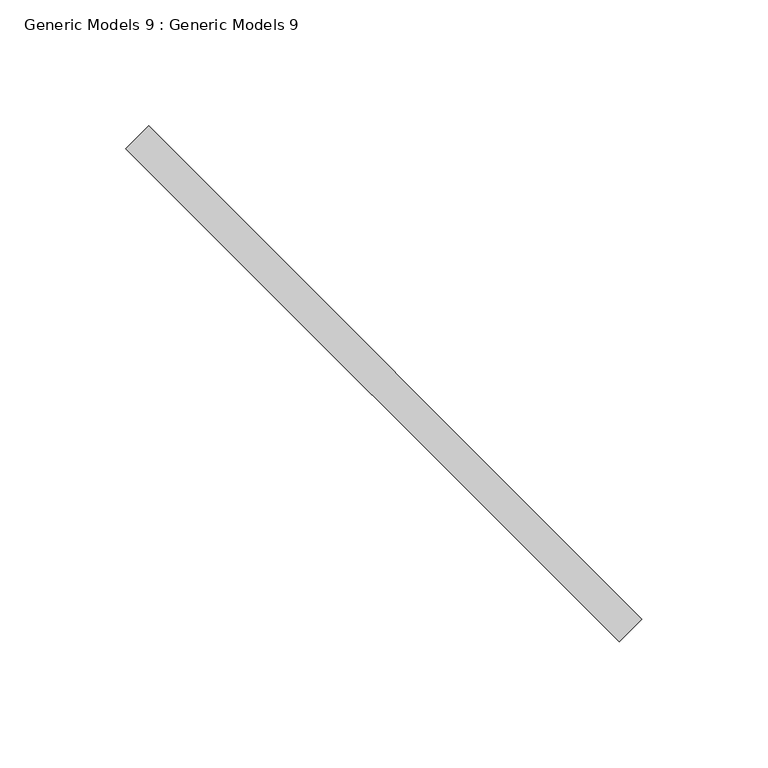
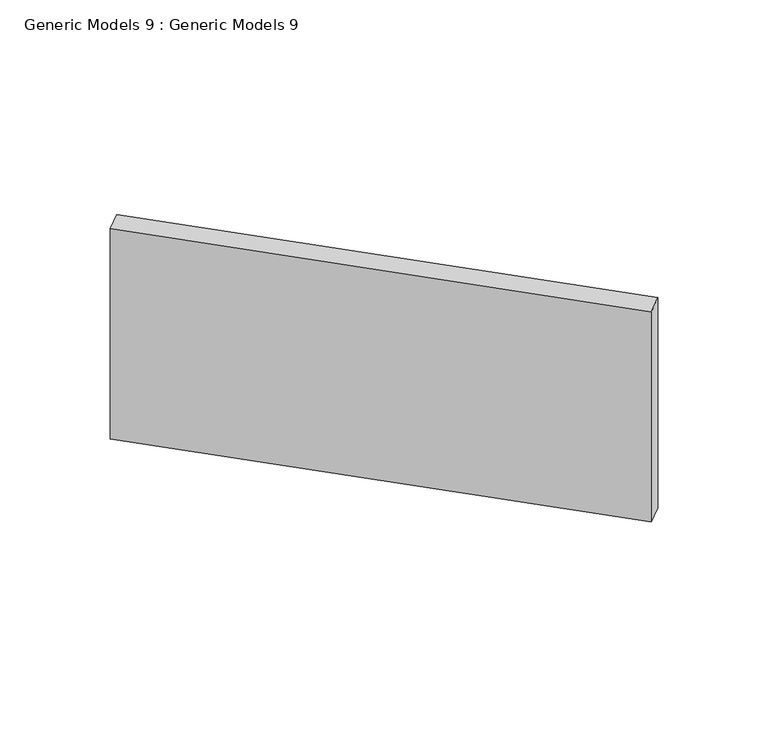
"""IFC4 building model written with IfcOpenShell, lengths in millimetres: proxy geometry, Generic Models 9 : Generic Models 9."""

from ifc_helpers import new_model, si_unit, frame, origin, place, context, project, spatial, polyline, outline, extrude, source, transform, mapped, element, save


def generic_models_9_generic_models_9_1c03b8d7(model_context):
    return source(origin(), model_context, "Body", "SweptSolid", [
        extrude(outline(polyline([(3615.2482378, 3197.2122745), (3811.0976133, 3001.3628989), (3802.1173572, 2992.3826428), (3606.2679816, 3188.2320184), (3615.2482378, 3197.2122745)])), frame((0.0, 0.0, 382.5875), z_axis=(0.0, 0.0, 1.0), x_axis=(1.0, 0.0, 0.0)), (0.0, 0.0, 1.0), 127.0),
    ])


if __name__ == "__main__":
    model = new_model("IFC4")
    model_context = context("Model", 3, world=origin())
    ifc_project = project(units=[si_unit("LENGTHUNIT", "METRE", prefix="MILLI")], contexts=[model_context])
    site = spatial("IfcSite", under=ifc_project)
    building = spatial("IfcBuilding", under=site)
    placement = place(None, origin())
    generic_models_9_generic_models_9_shape = generic_models_9_generic_models_9_1c03b8d7(model_context)
    element("IfcBuildingElementProxy", 1, Name="Generic Models 9 : Generic Models 9", ObjectType="Generic Models 9 : Generic Models 9", at=placement, inside=building, context=model_context, shape_type="MappedRepresentation", body=[
        mapped(generic_models_9_generic_models_9_shape, transform((0.0, 0.0, 0.0), x_axis=(1.0, 0.0, 0.0), y_axis=(0.0, 1.0, 0.0), z_axis=(0.0, 0.0, 1.0))),
    ])
    save(model, "model.ifc")
